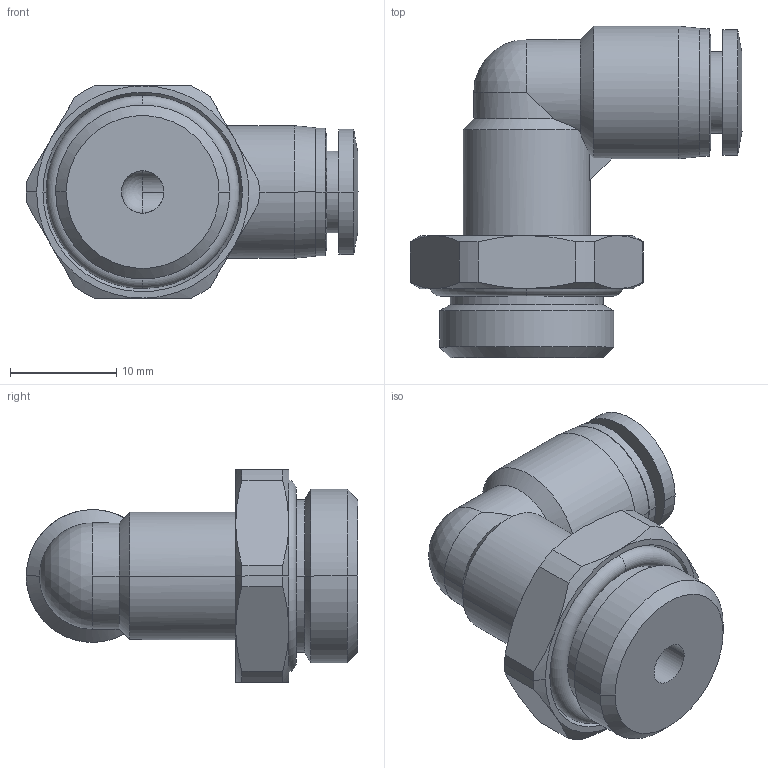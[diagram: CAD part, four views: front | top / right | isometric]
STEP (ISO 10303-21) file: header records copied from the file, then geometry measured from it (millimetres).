
FILE_DESCRIPTION (( 'STEP AP203' ), '1' );
FILE_NAME ('FL06-03.STEP', '2020-04-28T13:41:44', ( '' ), ( '' ), 'SwSTEP 2.0', 'SolidWorks 2019', '' );
FILE_SCHEMA (( 'CONFIG_CONTROL_DESIGN' ));
Length unit declared in the file: millimetre
Products named in the file (1): FL06-03
Bounding box: 31.3 x 31.25 x 20 mm (x, y, z)
Surface area: 3740.9 mm2 (no closed solid volume)
Topology: 0 solids, 4 shells, 89 faces, 214 edges, 133 vertices
Faces by surface type: cylinder 32, cone 30, plane 19, torus 4, bspline 2, sphere 2
Entity records: 4343 total; most frequent: CARTESIAN_POINT 2575, ORIENTED_EDGE 406, DIRECTION 224, EDGE_CURVE 211, B_SPLINE_CURVE_WITH_KNOTS 161, VERTEX_POINT 132, EDGE_LOOP 99, AXIS2_PLACEMENT_3D 92
